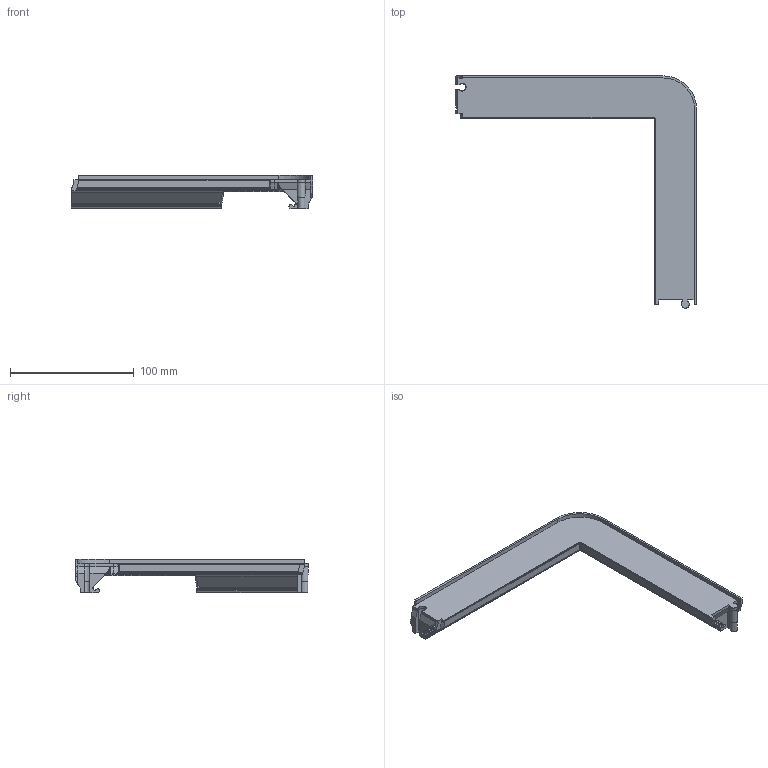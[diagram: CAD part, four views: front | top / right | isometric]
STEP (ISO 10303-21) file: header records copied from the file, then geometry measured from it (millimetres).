
FILE_DESCRIPTION(('Open CASCADE Model'),'2;1');
FILE_NAME('Open CASCADE Shape Model','2026-10-27T10:19:39',('Author'),( 'Open CASCADE'),'Open CASCADE STEP processor 8.0','build123d', 'Unknown');
FILE_SCHEMA(('AUTOMOTIVE_DESIGN { 1 0 10303 214 1 1 1 1 }'));
Products named in the file (1): SOLID
Bounding box: 195.1 x 187.89 x 26.9 mm (x, y, z)
Volume: 149711.6 mm3; surface area: 43400.6 mm2
Topology: 1 solids, 1 shells, 939 faces, 2147 edges, 1211 vertices
Faces by surface type: bspline 633, plane 292, cone 8, cylinder 6
Entity records: 52124 total; most frequent: CARTESIAN_POINT 13719, DIRECTION 5104, ORIENTED_EDGE 4294, PCURVE 4294, DEFINITIONAL_REPRESENTATION 4294, LINE 4250, VECTOR 4250, EDGE_CURVE 2147
